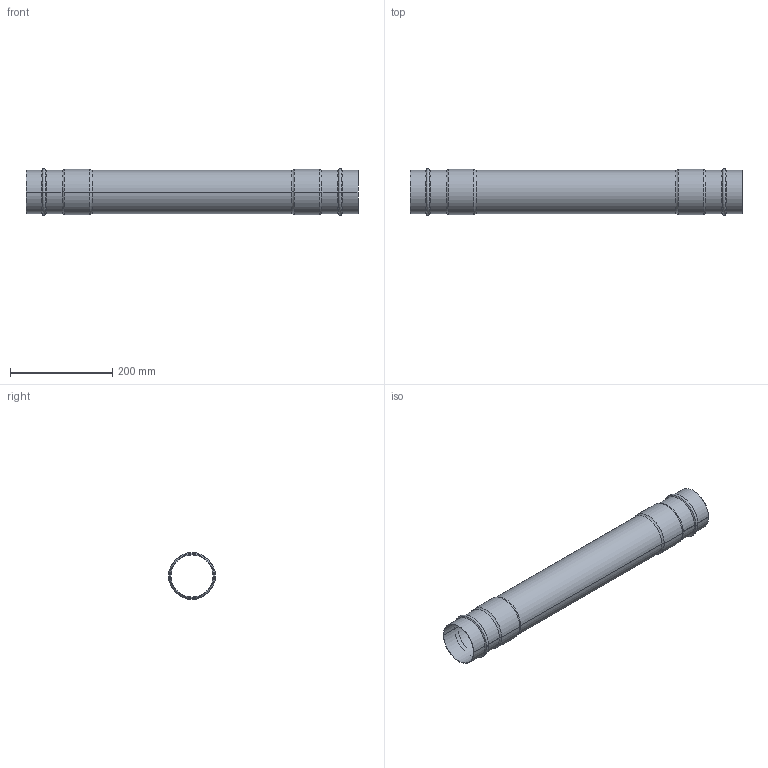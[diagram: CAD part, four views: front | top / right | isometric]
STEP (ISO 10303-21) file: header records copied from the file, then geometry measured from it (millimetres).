
FILE_DESCRIPTION((''),'2;1');
FILE_NAME('2016705500','2017-05-12T',('Administrator'),(''),'PRO/ENGINEER BY PARAMETRIC TECHNOLOGY CORPORATION, 2009360','PRO/ENGINEER BY PARAMETRIC TECHNOLOGY CORPORATION, 2009360','');
FILE_SCHEMA(('AUTOMOTIVE_DESIGN_CC2 { 1 2 10303 214 -1 1 5 2 }'));
Length unit declared in the file: millimetre
Products named in the file (1): 2016705500
Bounding box: 650 x 91.48 x 91.48 mm (x, y, z)
Volume: 239137.8 mm3; surface area: 345386.4 mm2
Topology: 1 solids, 1 shells, 38 faces, 76 edges, 40 vertices
Faces by surface type: cylinder 16, torus 12, cone 8, plane 2
Entity records: 1239 total; most frequent: DIRECTION 204, CARTESIAN_POINT 154, ORIENTED_EDGE 152, AXIS2_PLACEMENT_3D 90, PRESENTATION_STYLE_ASSIGNMENT 77, STYLED_ITEM 77, CURVE_STYLE 76, EDGE_CURVE 76
